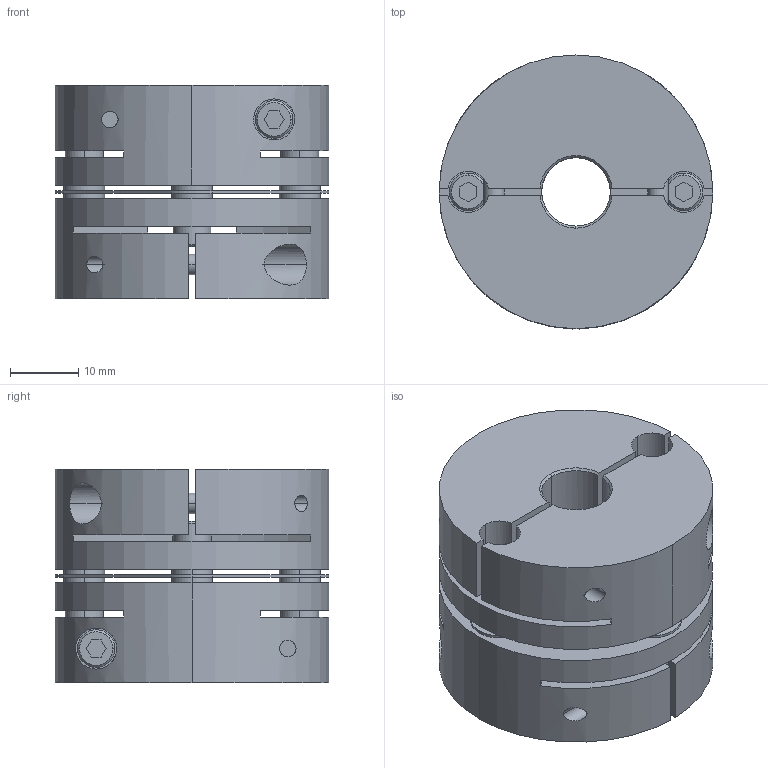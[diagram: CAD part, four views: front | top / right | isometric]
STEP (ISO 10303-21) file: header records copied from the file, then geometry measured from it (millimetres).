
FILE_DESCRIPTION((''),'2;1');
FILE_NAME('LAS-40C-10×16.stp','2011-08-11T08:54:53',(''),(''),'AutoCAD STEP 2000i','AutoCAD 2000i',', , ');
FILE_SCHEMA(('CONFIG_CONTROL_DESIGN'));
Length unit declared in the file: millimetre
Products named in the file (6): LAS-40C-10×15; 忣兜1; LA-4002-D15; LA-4002-D10-1; LA-4002-D10; LAS40-ITA
Assembly tree (5 placements, depth 2):
  LAS-40C-10×15
    忣兜1
    LA-4002-D15
    LA-4002-D10-1
    LA-4002-D10
    LAS40-ITA
Bounding box: 40 x 40 x 31.2 mm (x, y, z)
Volume: 30006.7 mm3; surface area: 15312.5 mm2
Topology: 1 solids, 1 shells, 236 faces, 624 edges, 408 vertices
Faces by surface type: plane 112, cylinder 96, cone 28
Entity records: 8177 total; most frequent: CARTESIAN_POINT 1970, DIRECTION 1304, ORIENTED_EDGE 1248, EDGE_CURVE 624, AXIS2_PLACEMENT_3D 478, VERTEX_POINT 408, VECTOR 348, LINE 348
